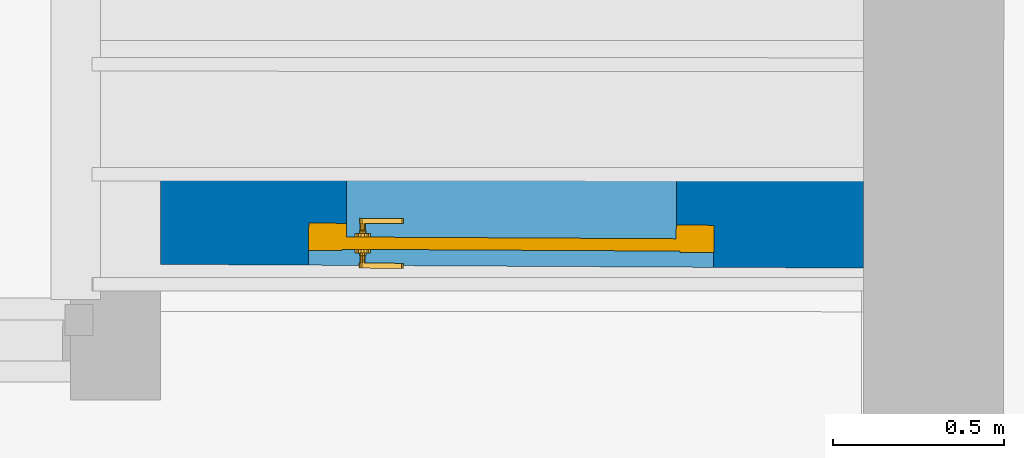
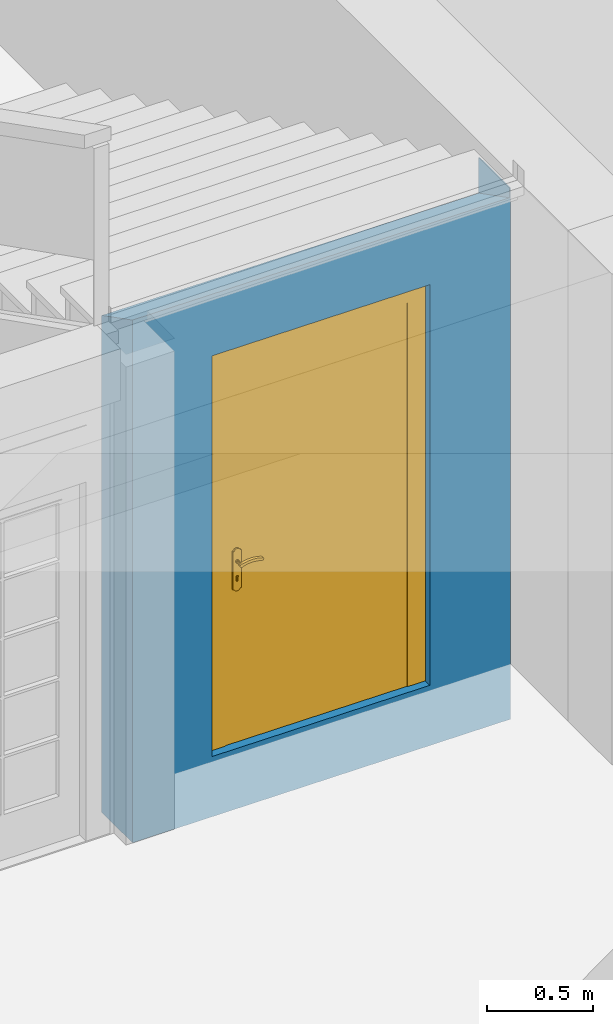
# One storey, part 90 of 196: 1 door, 1 wall, 1 opening.
"""IFC2X3 building model written with IfcOpenShell, lengths in metres."""

from ifc_helpers import new_model, entity, si_unit, converted_unit, derived_unit, money_unit, direction, frame, origin_with_axes, origin_2d_with_axis, place, context, subcontext, project, spatial, polyline, rectangle, outline, extrude, boolean, faceted_brep, material, type_object, element, fill, save


model = new_model("IFC2X3")

# Units and contexts
model_context = context("Model", 3, precision=1e-05, world=origin_with_axes(), true_north=direction((0.0, 1.0)))
body_context = subcontext(model_context, "Body", "Model", "MODEL_VIEW")
ifc_project = project(units=[si_unit("LENGTHUNIT", "METRE"), si_unit("AREAUNIT", "SQUARE_METRE"), si_unit("VOLUMEUNIT", "CUBIC_METRE"), converted_unit("PLANEANGLEUNIT", "DEGREE", entity("IfcPlaneAngleMeasure", 0.0174532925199), si_unit("PLANEANGLEUNIT", "RADIAN"), dimensions=[0, 0, 0, 0, 0, 0, 0]), money_unit("EUR"), converted_unit("TIMEUNIT", "Year", entity("IfcTimeMeasure", 31556926.0), si_unit("TIMEUNIT", "SECOND"), dimensions=[0, 0, 1, 0, 0, 0, 0]), si_unit("MASSUNIT", "GRAM", prefix="KILO"), si_unit("THERMODYNAMICTEMPERATUREUNIT", "DEGREE_CELSIUS"), si_unit("LUMINOUSINTENSITYUNIT", "LUMEN"), si_unit("ENERGYUNIT", "JOULE", prefix="MEGA"), derived_unit("THERMALCONDUCTANCEUNIT", [(si_unit("POWERUNIT", "WATT"), 1), (si_unit("LENGTHUNIT", "METRE"), -1), (si_unit("THERMODYNAMICTEMPERATUREUNIT", "KELVIN"), -1)]), derived_unit("SPECIFICHEATCAPACITYUNIT", [(si_unit("ENERGYUNIT", "JOULE"), 1), (si_unit("MASSUNIT", "GRAM", prefix="KILO"), -1), (si_unit("THERMODYNAMICTEMPERATUREUNIT", "KELVIN"), -1)]), derived_unit("MASSDENSITYUNIT", [(si_unit("MASSUNIT", "GRAM", prefix="KILO"), 1), (si_unit("VOLUMEUNIT", "CUBIC_METRE"), -1)])], contexts=[model_context])

# Site, building, storey
site_placement = place(None, origin_with_axes())
site = spatial("IfcSite", under=ifc_project, at=site_placement, Name="Gelände", CompositionType="ELEMENT")
building_placement = place(site_placement, origin_with_axes())
building = spatial("IfcBuilding", under=site, at=building_placement, Name="Gebäude", CompositionType="ELEMENT")
storey_placement = place(building_placement, frame((0.0, 0.0, -3.0), z_axis=(0.0, 0.0, 1.0), x_axis=(1.0, 0.0, 0.0)))
storey = spatial("IfcBuildingStorey", under=building, at=storey_placement, Name="KELLERGESCHOSS", CompositionType="ELEMENT", Elevation=-3.0)

# Wall, opening, door
ifc_material = material(Name="05_ALLGEMEIN - TRAGENDE BAUTEILE")
wall_type = type_object("IfcWallType", Name="05_ALLGEMEIN - TRAGENDE BAUTEILE 290", PredefinedType="ELEMENTEDWALL")
wall_placement = place(storey_placement, frame((-6.92928317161, 20.2177818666, -0.36), z_axis=(0.0, 0.0, 1.0), x_axis=(0.999985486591, -0.0053876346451, 0.0)))
wall = element("IfcWall", 1, at=wall_placement, inside=storey, type_object=wall_type, material=ifc_material, Name="Wand-038", ObjectType="ELEMENTEDWALL", context=body_context, shape_type="CSG", body=[
    boolean("DIFFERENCE", boolean("DIFFERENCE", extrude(outline(polyline([(-0.26514954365, 0.0), (2.46438993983, 0.0), (2.46438993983, 0.29), (-0.26514954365, 0.29), (-0.26514954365, 0.0)])), origin_with_axes(), (0.0, 0.0, 1.0), 3.065), faceted_brep([(2.04938486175, -3.17296411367e-10, 3.065), (2.04795029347, 0.29, 3.065), (-0.26514954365, 0.29, 3.065), (-0.26514954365, 0.0, 3.065), (2.04795029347, 0.29, 2.85960620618), (2.04938486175, -3.17296411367e-10, 3.00837472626), (-0.00156243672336, 0.29, 2.86512144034), (-0.00156243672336, 0.29, 0.0), (-0.26514954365, 0.29, 0.0), (-0.26514954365, 0.0, 0.0), (0.0, 0.0, 0.0), (0.0, -3.4204106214e-10, 3.01388961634)], [[[0, 1, 2, 3]], [[4, 1, 0, 5]], [[6, 7, 8, 2, 1, 4]], [[2, 8, 9, 3]], [[5, 0, 3, 9, 10, 11]], [[6, 4, 5, 11]], [[7, 6, 11, 10]], [[7, 10, 9, 8]]])), faceted_brep([(2.05295035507, 0.29, 0.0), (2.05295035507, 0.29, 3.065), (2.46438993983, 0.29, 3.065), (2.46438993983, 0.29, 0.0), (2.05438492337, 0.0, 3.065), (2.05438492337, 0.0, 0.0), (2.46438993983, 0.0, 3.065), (2.46438993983, 0.0, 0.0)], [[[0, 1, 2, 3]], [[4, 1, 0, 5]], [[1, 4, 6, 2]], [[6, 7, 3, 2]], [[5, 0, 3, 7]], [[4, 5, 7, 6]]])),
])
opening_placement = place(wall_placement, frame((1.02465252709, 0.0, 0.347304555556), z_axis=(0.0, 0.0, 1.0), x_axis=(1.0, 0.0, 0.0)))
opening = element("IfcOpeningElement", 2, at=opening_placement, cuts=wall, Name="Tür-022", context=body_context, shape_type="SweptSolid", body=[
    extrude(rectangle(XDim=0.964221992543, YDim=2.200287, at=origin_2d_with_axis()), frame((0.0, 0.123, 1.1001435), z_axis=(0.0, 1.0, 0.0), x_axis=(1.0, 0.0, 0.0)), (0.0, 0.0, 1.0), 0.457),
    extrude(rectangle(XDim=1.18422199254, YDim=2.310287, at=origin_2d_with_axis()), frame((0.0, 0.043, 1.1551435), z_axis=(0.0, -1.0, 0.0), x_axis=(1.0, 0.0, 0.0)), (0.0, 0.0, -1.0), 0.08),
    extrude(rectangle(XDim=1.18422199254, YDim=2.310287, at=origin_2d_with_axis()), frame((0.0, 0.043, 1.1551435), z_axis=(0.0, -1.0, 0.0), x_axis=(1.0, 0.0, 0.0)), (0.0, 0.0, 1.0), 0.333),
])
door_style = type_object("IfcDoorStyle", Name="Blockrahmentür 1-Fl 25", ConstructionType="NOTDEFINED", OperationType="SINGLE_SWING_LEFT", ParameterTakesPrecedence=False, Sizeable=False)
door_placement = place(opening_placement, frame((0.482110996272, 0.0, 0.0), z_axis=(0.0, 0.0, 1.0), x_axis=(-1.0, 0.0, 0.0)))
door = element("IfcDoor", 3, at=door_placement, inside=storey, type_object=door_style, Name="Tür-022", ObjectType="NOTDEFINED", OverallHeight=2.31029, OverallWidth=1.18422, context=body_context, shape_type="Brep", body=[
    faceted_brep([(-0.11, -0.083, 0.0), (-0.11, -0.123, 0.0), (-0.11, -0.123, 2.310287), (-0.11, -0.083, 2.310287), (0.0, -0.083, 0.0), (0.0, -0.123, 0.0), (0.0, -0.123, 2.200287), (0.964221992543, -0.123, 2.200287), (0.964221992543, -0.123, 0.0), (1.07422199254, -0.123, 0.0), (1.07422199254, -0.123, 2.310287), (1.07422199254, -0.083, 2.310287), (1.07422199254, -0.083, 0.0), (0.964221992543, -0.083, 0.0), (0.964221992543, -0.083, 2.200287), (0.0, -0.083, 2.200287)], [[[0, 1, 2, 3]], [[4, 5, 1, 0]], [[2, 1, 5, 6, 7, 8, 9, 10]], [[3, 2, 10, 11]], [[4, 0, 3, 11, 12, 13, 14, 15]], [[15, 6, 5, 4]], [[14, 7, 6, 15]], [[13, 8, 7, 14]], [[12, 9, 8, 13]], [[11, 10, 9, 12]]]),
    faceted_brep([(-0.11, -0.043, 0.0), (-0.11, -0.083, 0.0), (-0.11, -0.083, 2.310287), (-0.11, -0.043, 2.310287), (-0.012, -0.043, 0.0), (-0.012, -0.083, 0.0), (-0.012, -0.083, 2.212287), (0.976221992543, -0.083, 2.212287), (0.976221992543, -0.083, 0.0), (1.07422199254, -0.083, 0.0), (1.07422199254, -0.083, 2.310287), (1.07422199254, -0.043, 2.310287), (1.07422199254, -0.043, 0.0), (0.976221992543, -0.043, 0.0), (0.976221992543, -0.043, 2.212287), (-0.012, -0.043, 2.212287)], [[[0, 1, 2, 3]], [[4, 5, 1, 0]], [[2, 1, 5, 6, 7, 8, 9, 10]], [[3, 2, 10, 11]], [[4, 0, 3, 11, 12, 13, 14, 15]], [[15, 6, 5, 4]], [[14, 7, 6, 15]], [[13, 8, 7, 14]], [[12, 9, 8, 13]], [[11, 10, 9, 12]]]),
    faceted_brep([(0.976221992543, -0.047, 0.0), (-0.012, -0.047, 0.0), (-0.012, -0.047, 2.212287), (0.976221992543, -0.047, 2.212287), (0.976221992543, -0.083, 0.0), (-0.012, -0.083, 0.0), (-0.012, -0.083, 2.212287), (0.976221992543, -0.083, 2.212287)], [[[0, 1, 2, 3]], [[1, 0, 4, 5]], [[2, 1, 5, 6]], [[3, 2, 6, 7]], [[0, 3, 7, 4]], [[5, 4, 7, 6]]]),
    faceted_brep([(0.916221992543, -0.123, 1.058), (0.920924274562, -0.123, 1.05647213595), (0.920924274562, -0.103, 1.05647213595), (0.916221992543, -0.103, 1.058), (0.911519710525, -0.123, 1.05647213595), (0.908613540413, -0.123, 1.05247213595), (0.908613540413, -0.123, 1.04752786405), (0.911519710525, -0.123, 1.04352786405), (0.916221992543, -0.123, 1.042), (0.920924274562, -0.123, 1.04352786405), (0.923830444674, -0.123, 1.04752786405), (0.923830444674, -0.123, 1.05247213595), (0.923830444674, -0.103, 1.05247213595), (0.922099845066, -0.101, 1.05809016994), (0.916221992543, -0.101, 1.06), (0.911519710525, -0.103, 1.05647213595), (0.908613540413, -0.103, 1.05247213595), (0.908613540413, -0.103, 1.04752786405), (0.911519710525, -0.103, 1.04352786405), (0.916221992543, -0.103, 1.042), (0.920924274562, -0.103, 1.04352786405), (0.923830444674, -0.103, 1.04752786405), (0.925732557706, -0.101, 1.05309016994), (0.922099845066, -0.093, 1.05809016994), (0.916221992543, -0.093, 1.06), (0.910344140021, -0.101, 1.05809016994), (0.90671142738, -0.101, 1.05309016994), (0.90671142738, -0.101, 1.04690983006), (0.910344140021, -0.101, 1.04190983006), (0.916221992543, -0.101, 1.04), (0.922099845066, -0.101, 1.04190983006), (0.925732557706, -0.101, 1.04690983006), (0.925732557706, -0.093, 1.05309016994), (0.910344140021, -0.093, 1.05809016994), (0.925732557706, -0.093, 1.04690983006), (0.922099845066, -0.093, 1.04190983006), (0.916221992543, -0.093, 1.04), (0.910344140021, -0.093, 1.04190983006), (0.90671142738, -0.093, 1.04690983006), (0.90671142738, -0.093, 1.05309016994)], [[[0, 1, 2, 3]], [[1, 0, 4, 5, 6, 7, 8, 9, 10, 11]], [[1, 11, 12, 2]], [[3, 2, 13, 14]], [[4, 0, 3, 15]], [[5, 4, 15, 16]], [[6, 5, 16, 17]], [[7, 6, 17, 18]], [[8, 7, 18, 19]], [[9, 8, 19, 20]], [[10, 9, 20, 21]], [[11, 10, 21, 12]], [[2, 12, 22, 13]], [[14, 13, 23, 24]], [[15, 3, 14, 25]], [[16, 15, 25, 26]], [[17, 16, 26, 27]], [[18, 17, 27, 28]], [[19, 18, 28, 29]], [[20, 19, 29, 30]], [[21, 20, 30, 31]], [[12, 21, 31, 22]], [[13, 22, 32, 23]], [[33, 24, 23, 32, 34, 35, 36, 37, 38, 39]], [[25, 14, 24, 33]], [[26, 25, 33, 39]], [[27, 26, 39, 38]], [[28, 27, 38, 37]], [[29, 28, 37, 36]], [[30, 29, 36, 35]], [[31, 30, 35, 34]], [[22, 31, 34, 32]]]),
    faceted_brep([(0.911778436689, -0.093, 1.12195567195), (0.904033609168, -0.093, 1.11759695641), (0.899421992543, -0.093, 1.11), (0.893721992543, -0.093, 1.11), (0.893721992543, -0.093, 0.89), (0.899421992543, -0.093, 0.89), (0.904033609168, -0.093, 0.882403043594), (0.911778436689, -0.093, 0.878044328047), (0.920665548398, -0.093, 0.878044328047), (0.928410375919, -0.093, 0.882403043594), (0.933021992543, -0.093, 0.89), (0.938721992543, -0.093, 0.89), (0.938721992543, -0.093, 1.11), (0.933021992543, -0.093, 1.11), (0.928410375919, -0.093, 1.11759695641), (0.920665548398, -0.093, 1.12195567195), (0.910846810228, -0.093, 0.965143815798), (0.916221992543, -0.093, 0.967425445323), (0.921597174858, -0.093, 0.965143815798), (0.923689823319, -0.093, 0.959692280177), (0.921221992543, -0.093, 0.9544), (0.921221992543, -0.093, 0.9375), (0.919757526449, -0.093, 0.933964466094), (0.916221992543, -0.093, 0.9325), (0.912686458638, -0.093, 0.933964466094), (0.911221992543, -0.093, 0.9375), (0.911221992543, -0.093, 0.9544), (0.908754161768, -0.093, 0.959692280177), (0.911778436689, -0.083, 1.12195567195), (0.904033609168, -0.083, 1.11759695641), (0.899421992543, -0.083, 1.11), (0.893721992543, -0.083, 1.11), (0.893721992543, -0.083, 0.89), (0.899421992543, -0.083, 0.89), (0.904033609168, -0.083, 0.882403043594), (0.911778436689, -0.083, 0.878044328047), (0.920665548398, -0.083, 0.878044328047), (0.928410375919, -0.083, 0.882403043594), (0.933021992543, -0.083, 0.89), (0.938721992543, -0.083, 0.89), (0.938721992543, -0.083, 1.11), (0.933021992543, -0.083, 1.11), (0.928410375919, -0.083, 1.11759695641), (0.920665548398, -0.083, 1.12195567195), (0.910846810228, -0.083, 0.965143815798), (0.916221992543, -0.083, 0.967425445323), (0.921597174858, -0.083, 0.965143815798), (0.923689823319, -0.083, 0.959692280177), (0.921221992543, -0.083, 0.9544), (0.921221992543, -0.083, 0.9375), (0.919757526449, -0.083, 0.933964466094), (0.916221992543, -0.083, 0.9325), (0.912686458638, -0.083, 0.933964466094), (0.911221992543, -0.083, 0.9375), (0.911221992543, -0.083, 0.9544), (0.908754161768, -0.083, 0.959692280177)], [[[0, 1, 2, 3, 4, 5, 6, 7, 8, 9, 10, 11, 12, 13, 14, 15], [16, 17, 18, 19, 20, 21, 22, 23, 24, 25, 26, 27]], [[1, 0, 28, 29]], [[2, 1, 29, 30]], [[3, 2, 30, 31]], [[4, 3, 31, 32]], [[5, 4, 32, 33]], [[6, 5, 33, 34]], [[7, 6, 34, 35]], [[8, 7, 35, 36]], [[9, 8, 36, 37]], [[10, 9, 37, 38]], [[11, 10, 38, 39]], [[12, 11, 39, 40]], [[13, 12, 40, 41]], [[14, 13, 41, 42]], [[15, 14, 42, 43]], [[0, 15, 43, 28]], [[17, 16, 44, 45]], [[18, 17, 45, 46]], [[19, 18, 46, 47]], [[20, 19, 47, 48]], [[20, 48, 49, 21]], [[50, 22, 21, 49]], [[51, 23, 22, 50]], [[52, 24, 23, 51]], [[53, 25, 24, 52]], [[54, 26, 25, 53]], [[27, 26, 54, 55]], [[16, 27, 55, 44]], [[34, 33, 32, 31, 30, 29, 28, 43, 42, 41, 40, 39, 38, 37, 36, 35], [48, 47, 46, 45, 44, 55, 54, 53, 52, 51, 50, 49]]]),
    faceted_brep([(0.920924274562, -0.027, 1.05647213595), (0.920924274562, -0.00699999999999, 1.05647213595), (0.916221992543, -0.00699999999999, 1.058), (0.916221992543, -0.027, 1.058), (0.923830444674, -0.027, 1.05247213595), (0.923830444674, -0.00699999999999, 1.05247213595), (0.911519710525, -0.00699999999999, 1.05647213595), (0.923830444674, -0.00699999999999, 1.04752786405), (0.920924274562, -0.00699999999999, 1.04352786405), (0.916221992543, -0.00699999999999, 1.042), (0.911519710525, -0.00699999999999, 1.04352786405), (0.908613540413, -0.00699999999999, 1.04752786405), (0.908613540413, -0.00699999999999, 1.05247213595), (0.911519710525, -0.027, 1.05647213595), (0.922099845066, -0.029, 1.05809016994), (0.916221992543, -0.029, 1.06), (0.923830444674, -0.027, 1.04752786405), (0.925732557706, -0.029, 1.05309016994), (0.920924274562, -0.027, 1.04352786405), (0.916221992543, -0.027, 1.042), (0.911519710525, -0.027, 1.04352786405), (0.908613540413, -0.027, 1.04752786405), (0.908613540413, -0.027, 1.05247213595), (0.910344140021, -0.029, 1.05809016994), (0.922099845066, -0.037, 1.05809016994), (0.916221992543, -0.037, 1.06), (0.925732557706, -0.029, 1.04690983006), (0.925732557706, -0.037, 1.05309016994), (0.922099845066, -0.029, 1.04190983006), (0.916221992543, -0.029, 1.04), (0.910344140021, -0.029, 1.04190983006), (0.90671142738, -0.029, 1.04690983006), (0.90671142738, -0.029, 1.05309016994), (0.910344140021, -0.037, 1.05809016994), (0.90671142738, -0.037, 1.05309016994), (0.90671142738, -0.037, 1.04690983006), (0.910344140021, -0.037, 1.04190983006), (0.916221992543, -0.037, 1.04), (0.922099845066, -0.037, 1.04190983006), (0.925732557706, -0.037, 1.04690983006)], [[[0, 1, 2, 3]], [[4, 5, 1, 0]], [[6, 2, 1, 5, 7, 8, 9, 10, 11, 12]], [[3, 2, 6, 13]], [[14, 0, 3, 15]], [[16, 7, 5, 4]], [[17, 4, 0, 14]], [[18, 8, 7, 16]], [[19, 9, 8, 18]], [[20, 10, 9, 19]], [[21, 11, 10, 20]], [[22, 12, 11, 21]], [[13, 6, 12, 22]], [[15, 3, 13, 23]], [[24, 14, 15, 25]], [[26, 16, 4, 17]], [[27, 17, 14, 24]], [[28, 18, 16, 26]], [[29, 19, 18, 28]], [[30, 20, 19, 29]], [[31, 21, 20, 30]], [[32, 22, 21, 31]], [[23, 13, 22, 32]], [[25, 15, 23, 33]], [[24, 25, 33, 34, 35, 36, 37, 38, 39, 27]], [[39, 26, 17, 27]], [[38, 28, 26, 39]], [[37, 29, 28, 38]], [[36, 30, 29, 37]], [[35, 31, 30, 36]], [[34, 32, 31, 35]], [[33, 23, 32, 34]]]),
    faceted_brep([(0.911778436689, -0.047, 1.12195567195), (0.904033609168, -0.047, 1.11759695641), (0.899421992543, -0.047, 1.11), (0.893721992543, -0.047, 1.11), (0.893721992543, -0.047, 0.89), (0.899421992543, -0.047, 0.89), (0.904033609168, -0.047, 0.882403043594), (0.911778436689, -0.047, 0.878044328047), (0.920665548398, -0.047, 0.878044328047), (0.928410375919, -0.047, 0.882403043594), (0.933021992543, -0.047, 0.89), (0.938721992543, -0.047, 0.89), (0.938721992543, -0.047, 1.11), (0.933021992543, -0.047, 1.11), (0.928410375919, -0.047, 1.11759695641), (0.920665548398, -0.047, 1.12195567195), (0.910846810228, -0.047, 0.965143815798), (0.916221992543, -0.047, 0.967425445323), (0.921597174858, -0.047, 0.965143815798), (0.923689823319, -0.047, 0.959692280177), (0.921221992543, -0.047, 0.9544), (0.921221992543, -0.047, 0.9375), (0.919757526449, -0.047, 0.933964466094), (0.916221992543, -0.047, 0.9325), (0.912686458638, -0.047, 0.933964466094), (0.911221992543, -0.047, 0.9375), (0.911221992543, -0.047, 0.9544), (0.908754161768, -0.047, 0.959692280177), (0.911778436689, -0.037, 1.12195567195), (0.904033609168, -0.037, 1.11759695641), (0.899421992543, -0.037, 1.11), (0.893721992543, -0.037, 1.11), (0.893721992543, -0.037, 0.89), (0.899421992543, -0.037, 0.89), (0.904033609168, -0.037, 0.882403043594), (0.911778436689, -0.037, 0.878044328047), (0.920665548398, -0.037, 0.878044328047), (0.928410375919, -0.037, 0.882403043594), (0.933021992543, -0.037, 0.89), (0.938721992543, -0.037, 0.89), (0.938721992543, -0.037, 1.11), (0.933021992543, -0.037, 1.11), (0.928410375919, -0.037, 1.11759695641), (0.920665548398, -0.037, 1.12195567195), (0.910846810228, -0.037, 0.965143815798), (0.916221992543, -0.037, 0.967425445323), (0.921597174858, -0.037, 0.965143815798), (0.923689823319, -0.037, 0.959692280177), (0.921221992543, -0.037, 0.9544), (0.921221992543, -0.037, 0.9375), (0.919757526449, -0.037, 0.933964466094), (0.916221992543, -0.037, 0.9325), (0.912686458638, -0.037, 0.933964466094), (0.911221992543, -0.037, 0.9375), (0.911221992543, -0.037, 0.9544), (0.908754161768, -0.037, 0.959692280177)], [[[0, 1, 2, 3, 4, 5, 6, 7, 8, 9, 10, 11, 12, 13, 14, 15], [16, 17, 18, 19, 20, 21, 22, 23, 24, 25, 26, 27]], [[0, 28, 29, 1]], [[1, 29, 30, 2]], [[2, 30, 31, 3]], [[3, 31, 32, 4]], [[4, 32, 33, 5]], [[5, 33, 34, 6]], [[6, 34, 35, 7]], [[7, 35, 36, 8]], [[8, 36, 37, 9]], [[9, 37, 38, 10]], [[10, 38, 39, 11]], [[11, 39, 40, 12]], [[12, 40, 41, 13]], [[13, 41, 42, 14]], [[14, 42, 43, 15]], [[15, 43, 28, 0]], [[17, 16, 44, 45]], [[18, 17, 45, 46]], [[19, 18, 46, 47]], [[20, 19, 47, 48]], [[20, 48, 49, 21]], [[50, 22, 21, 49]], [[51, 23, 22, 50]], [[52, 24, 23, 51]], [[53, 25, 24, 52]], [[54, 26, 25, 53]], [[27, 26, 54, 55]], [[16, 27, 55, 44]], [[34, 33, 32, 31, 30, 29, 28, 43, 42, 41, 40, 39, 38, 37, 36, 35], [48, 47, 46, 45, 44, 55, 54, 53, 52, 51, 50, 49]]]),
    faceted_brep([(0.801967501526, -0.00699999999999, 1.05719388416), (0.801968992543, -0.00699999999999, 1.057158), (0.801968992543, 0.00800000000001, 1.057158), (0.801967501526, 0.00800000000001, 1.05719388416), (0.828996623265, -0.00699999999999, 1.06432652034), (0.797607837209, -0.00699999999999, 1.05364829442), (0.796916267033, -0.00699999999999, 1.04807159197), (0.80027780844, -0.00699999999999, 1.04356849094), (0.805820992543, -0.00699999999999, 1.042646), (0.830870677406, -0.007, 1.04917624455), (0.856632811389, -0.00699999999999, 1.05171460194), (0.882475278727, -0.00699999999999, 1.05019878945), (0.907763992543, -0.00699999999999, 1.044666), (0.907743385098, -0.00699999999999, 1.04469843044), (0.912735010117, -0.00699999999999, 1.04062800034), (0.919173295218, -0.00699999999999, 1.04044577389), (0.924387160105, -0.00699999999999, 1.04422735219), (0.926213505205, -0.00699999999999, 1.05040385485), (0.923894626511, -0.00699999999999, 1.05641280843), (0.918392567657, -0.00699999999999, 1.05976125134), (0.911989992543, -0.00699999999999, 1.05906), (0.88473073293, -0.00699999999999, 1.06529002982), (0.85682473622, -0.00699999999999, 1.06706086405), (0.828996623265, 0.00800000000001, 1.06432652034), (0.85682473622, 0.008, 1.06706086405), (0.88473073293, 0.00800000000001, 1.06529002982), (0.911989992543, 0.00800000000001, 1.05906), (0.918392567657, 0.00800000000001, 1.05976125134), (0.923894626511, 0.00800000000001, 1.05641280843), (0.926213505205, 0.00800000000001, 1.05040385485), (0.924387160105, 0.00800000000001, 1.04422735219), (0.919173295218, 0.00800000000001, 1.04044577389), (0.912735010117, 0.00800000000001, 1.04062800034), (0.907743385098, 0.00800000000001, 1.04469843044), (0.907763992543, 0.00800000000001, 1.044666), (0.882475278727, 0.00800000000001, 1.05019878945), (0.856632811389, 0.00800000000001, 1.05171460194), (0.830870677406, 0.00800000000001, 1.04917624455), (0.805820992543, 0.00800000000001, 1.042646), (0.80027780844, 0.00800000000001, 1.04356849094), (0.796916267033, 0.00800000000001, 1.04807159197), (0.797607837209, 0.00800000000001, 1.05364829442)], [[[0, 1, 2, 3]], [[4, 1, 0, 5, 6, 7, 8, 9, 10, 11, 12, 13, 14, 15, 16, 17, 18, 19, 20, 21, 22]], [[1, 4, 23, 2]], [[3, 2, 23, 24, 25, 26, 27, 28, 29, 30, 31, 32, 33, 34, 35, 36, 37, 38, 39, 40, 41]], [[5, 0, 3, 41]], [[6, 5, 41, 40]], [[7, 6, 40, 39]], [[8, 7, 39, 38]], [[9, 8, 38, 37]], [[10, 9, 37, 36]], [[11, 10, 36, 35]], [[12, 11, 35, 34]], [[13, 12, 34, 33]], [[14, 13, 33, 32]], [[15, 14, 32, 31]], [[16, 15, 31, 30]], [[17, 16, 30, 29]], [[18, 17, 29, 28]], [[19, 18, 28, 27]], [[20, 19, 27, 26]], [[21, 20, 26, 25]], [[22, 21, 25, 24]], [[4, 22, 24, 23]]]),
    faceted_brep([(0.801968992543, -0.138, 1.057158), (0.801968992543, -0.123, 1.057158), (0.801967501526, -0.123, 1.05719388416), (0.801967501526, -0.138, 1.05719388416), (0.828996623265, -0.138, 1.06432652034), (0.828996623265, -0.123, 1.06432652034), (0.85682473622, -0.123, 1.06706086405), (0.88473073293, -0.123, 1.06529002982), (0.911989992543, -0.123, 1.05906), (0.918392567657, -0.123, 1.05976125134), (0.923894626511, -0.123, 1.05641280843), (0.926213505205, -0.123, 1.05040385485), (0.924387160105, -0.123, 1.04422735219), (0.919173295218, -0.123, 1.04044577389), (0.912735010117, -0.123, 1.04062800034), (0.907743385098, -0.123, 1.04469843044), (0.907763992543, -0.123, 1.044666), (0.882475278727, -0.123, 1.05019878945), (0.856632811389, -0.123, 1.05171460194), (0.830870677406, -0.123, 1.04917624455), (0.805820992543, -0.123, 1.042646), (0.80027780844, -0.123, 1.04356849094), (0.796916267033, -0.123, 1.04807159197), (0.797607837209, -0.123, 1.05364829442), (0.797607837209, -0.138, 1.05364829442), (0.796916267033, -0.138, 1.04807159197), (0.80027780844, -0.138, 1.04356849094), (0.805820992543, -0.138, 1.042646), (0.830870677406, -0.138, 1.04917624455), (0.856632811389, -0.138, 1.05171460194), (0.882475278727, -0.138, 1.05019878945), (0.907763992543, -0.138, 1.044666), (0.907743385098, -0.138, 1.04469843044), (0.912735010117, -0.138, 1.04062800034), (0.919173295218, -0.138, 1.04044577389), (0.924387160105, -0.138, 1.04422735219), (0.926213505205, -0.138, 1.05040385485), (0.923894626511, -0.138, 1.05641280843), (0.918392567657, -0.138, 1.05976125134), (0.911989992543, -0.138, 1.05906), (0.88473073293, -0.138, 1.06529002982), (0.85682473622, -0.138, 1.06706086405)], [[[0, 1, 2, 3]], [[4, 5, 1, 0]], [[2, 1, 5, 6, 7, 8, 9, 10, 11, 12, 13, 14, 15, 16, 17, 18, 19, 20, 21, 22, 23]], [[3, 2, 23, 24]], [[4, 0, 3, 24, 25, 26, 27, 28, 29, 30, 31, 32, 33, 34, 35, 36, 37, 38, 39, 40, 41]], [[41, 6, 5, 4]], [[40, 7, 6, 41]], [[39, 8, 7, 40]], [[38, 9, 8, 39]], [[37, 10, 9, 38]], [[36, 11, 10, 37]], [[35, 12, 11, 36]], [[34, 13, 12, 35]], [[33, 14, 13, 34]], [[32, 15, 14, 33]], [[31, 16, 15, 32]], [[30, 17, 16, 31]], [[29, 18, 17, 30]], [[28, 19, 18, 29]], [[27, 20, 19, 28]], [[26, 21, 20, 27]], [[25, 22, 21, 26]], [[24, 23, 22, 25]]]),
])
fill(opening, door)

save(model, "model.ifc")
